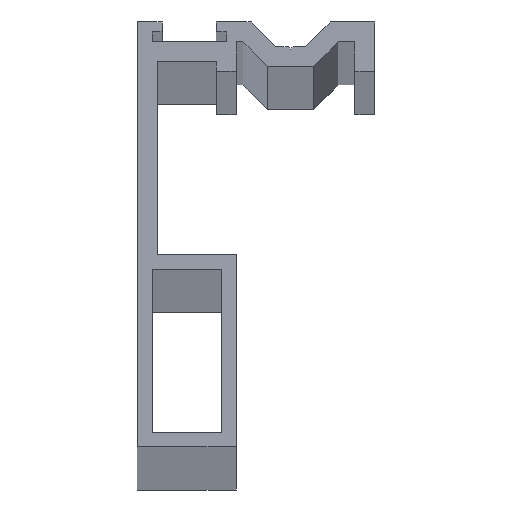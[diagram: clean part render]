
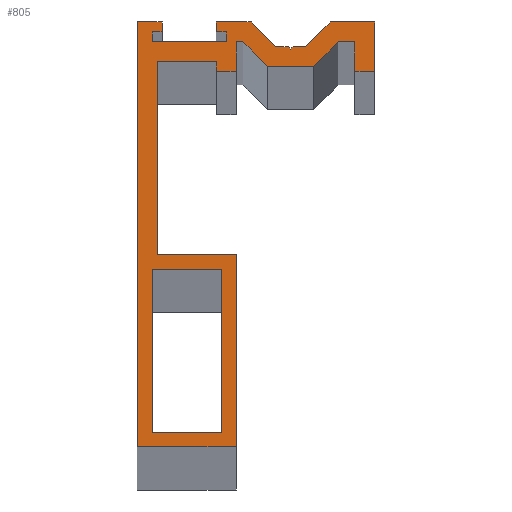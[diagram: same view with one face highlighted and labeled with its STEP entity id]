
A CAD part, top view. The second image highlights one B-rep face of the part: STEP entity #805.
In plain terms, the highlighted planar face has unit normal (0, 0, 1).
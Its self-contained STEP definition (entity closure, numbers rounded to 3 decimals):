
#805=ADVANCED_FACE('',(#1429,#1430),#1431,.T.);
#1429=FACE_BOUND('',#2228,.T.);
#1430=FACE_OUTER_BOUND('',#2229,.T.);
#1431=PLANE('',#2230);
#2228=EDGE_LOOP('',(#3099,#3100,#3101,#3102));
#2229=EDGE_LOOP('',(#3103,#3104,#3105,#3106,#3107,#3108,#3109,#3110,#3111,#3112,#3113,#3114,#3115,#3116,#3117,#3118,#3119,#3120,#3121,#3122,#3123,#3124,#3125,#3126,#3127,#3128,#3129,#3130,#3131,#3132,#3133,#3134,#3135));
#2230=AXIS2_PLACEMENT_3D('',#3136,#3137,#3138);
#3099=ORIENTED_EDGE('',*,*,#3687,.T.);
#3100=ORIENTED_EDGE('',*,*,#3692,.T.);
#3101=ORIENTED_EDGE('',*,*,#3696,.T.);
#3102=ORIENTED_EDGE('',*,*,#3699,.T.);
#3103=ORIENTED_EDGE('',*,*,#3827,.T.);
#3104=ORIENTED_EDGE('',*,*,#3823,.T.);
#3105=ORIENTED_EDGE('',*,*,#3819,.T.);
#3106=ORIENTED_EDGE('',*,*,#3815,.T.);
#3107=ORIENTED_EDGE('',*,*,#3811,.T.);
#3108=ORIENTED_EDGE('',*,*,#3806,.T.);
#3109=ORIENTED_EDGE('',*,*,#3586,.T.);
#3110=ORIENTED_EDGE('',*,*,#3803,.T.);
#3111=ORIENTED_EDGE('',*,*,#3799,.T.);
#3112=ORIENTED_EDGE('',*,*,#3795,.T.);
#3113=ORIENTED_EDGE('',*,*,#3791,.T.);
#3114=ORIENTED_EDGE('',*,*,#3787,.T.);
#3115=ORIENTED_EDGE('',*,*,#3783,.T.);
#3116=ORIENTED_EDGE('',*,*,#3779,.T.);
#3117=ORIENTED_EDGE('',*,*,#3775,.T.);
#3118=ORIENTED_EDGE('',*,*,#3771,.T.);
#3119=ORIENTED_EDGE('',*,*,#3767,.T.);
#3120=ORIENTED_EDGE('',*,*,#3763,.T.);
#3121=ORIENTED_EDGE('',*,*,#3759,.T.);
#3122=ORIENTED_EDGE('',*,*,#3755,.T.);
#3123=ORIENTED_EDGE('',*,*,#3751,.T.);
#3124=ORIENTED_EDGE('',*,*,#3747,.T.);
#3125=ORIENTED_EDGE('',*,*,#3743,.T.);
#3126=ORIENTED_EDGE('',*,*,#3739,.T.);
#3127=ORIENTED_EDGE('',*,*,#3735,.T.);
#3128=ORIENTED_EDGE('',*,*,#3731,.T.);
#3129=ORIENTED_EDGE('',*,*,#3727,.T.);
#3130=ORIENTED_EDGE('',*,*,#3723,.T.);
#3131=ORIENTED_EDGE('',*,*,#3719,.T.);
#3132=ORIENTED_EDGE('',*,*,#3715,.T.);
#3133=ORIENTED_EDGE('',*,*,#3711,.T.);
#3134=ORIENTED_EDGE('',*,*,#3707,.T.);
#3135=ORIENTED_EDGE('',*,*,#3703,.T.);
#3136=CARTESIAN_POINT('',(5.299,8.099,2500.0));
#3137=DIRECTION('',(0.0,0.0,1.0));
#3138=DIRECTION('',(1.0,0.0,0.0));
#3586=EDGE_CURVE('',#4145,#4143,#4146,.T.);
#3687=EDGE_CURVE('',#4292,#4290,#4293,.T.);
#3692=EDGE_CURVE('',#4290,#4298,#4300,.T.);
#3696=EDGE_CURVE('',#4298,#4304,#4306,.T.);
#3699=EDGE_CURVE('',#4304,#4292,#4309,.T.);
#3703=EDGE_CURVE('',#4316,#4314,#4317,.T.);
#3707=EDGE_CURVE('',#4322,#4316,#4323,.T.);
#3711=EDGE_CURVE('',#4328,#4322,#4329,.T.);
#3715=EDGE_CURVE('',#4334,#4328,#4335,.T.);
#3719=EDGE_CURVE('',#4340,#4334,#4341,.T.);
#3723=EDGE_CURVE('',#4346,#4340,#4347,.T.);
#3727=EDGE_CURVE('',#4352,#4346,#4353,.T.);
#3731=EDGE_CURVE('',#4358,#4352,#4359,.T.);
#3735=EDGE_CURVE('',#4364,#4358,#4365,.T.);
#3739=EDGE_CURVE('',#4370,#4364,#4371,.T.);
#3743=EDGE_CURVE('',#4376,#4370,#4377,.T.);
#3747=EDGE_CURVE('',#4382,#4376,#4383,.T.);
#3751=EDGE_CURVE('',#4388,#4382,#4389,.T.);
#3755=EDGE_CURVE('',#4394,#4388,#4395,.T.);
#3759=EDGE_CURVE('',#4400,#4394,#4401,.T.);
#3763=EDGE_CURVE('',#4406,#4400,#4407,.T.);
#3767=EDGE_CURVE('',#4412,#4406,#4413,.T.);
#3771=EDGE_CURVE('',#4418,#4412,#4419,.T.);
#3775=EDGE_CURVE('',#4424,#4418,#4425,.T.);
#3779=EDGE_CURVE('',#4430,#4424,#4431,.T.);
#3783=EDGE_CURVE('',#4436,#4430,#4437,.T.);
#3787=EDGE_CURVE('',#4442,#4436,#4443,.T.);
#3791=EDGE_CURVE('',#4448,#4442,#4449,.T.);
#3795=EDGE_CURVE('',#4454,#4448,#4455,.T.);
#3799=EDGE_CURVE('',#4460,#4454,#4461,.T.);
#3803=EDGE_CURVE('',#4143,#4460,#4465,.T.);
#3806=EDGE_CURVE('',#4468,#4145,#4469,.T.);
#3811=EDGE_CURVE('',#4476,#4468,#4477,.T.);
#3815=EDGE_CURVE('',#4482,#4476,#4483,.T.);
#3819=EDGE_CURVE('',#4488,#4482,#4489,.T.);
#3823=EDGE_CURVE('',#4494,#4488,#4495,.T.);
#3827=EDGE_CURVE('',#4314,#4494,#4499,.T.);
#4143=VERTEX_POINT('',#4627);
#4145=VERTEX_POINT('',#4630);
#4146=LINE('',#4631,#4632);
#4290=VERTEX_POINT('',#4819);
#4292=VERTEX_POINT('',#4822);
#4293=LINE('',#4823,#4824);
#4298=VERTEX_POINT('',#4831);
#4300=LINE('',#4834,#4835);
#4304=VERTEX_POINT('',#4840);
#4306=LINE('',#4843,#4844);
#4309=LINE('',#4848,#4849);
#4314=VERTEX_POINT('',#4855);
#4316=VERTEX_POINT('',#4858);
#4317=LINE('',#4859,#4860);
#4322=VERTEX_POINT('',#4867);
#4323=LINE('',#4868,#4869);
#4328=VERTEX_POINT('',#4876);
#4329=LINE('',#4877,#4878);
#4334=VERTEX_POINT('',#4885);
#4335=LINE('',#4886,#4887);
#4340=VERTEX_POINT('',#4894);
#4341=LINE('',#4895,#4896);
#4346=VERTEX_POINT('',#4903);
#4347=LINE('',#4904,#4905);
#4352=VERTEX_POINT('',#4912);
#4353=LINE('',#4913,#4914);
#4358=VERTEX_POINT('',#4921);
#4359=LINE('',#4922,#4923);
#4364=VERTEX_POINT('',#4930);
#4365=LINE('',#4931,#4932);
#4370=VERTEX_POINT('',#4939);
#4371=LINE('',#4940,#4941);
#4376=VERTEX_POINT('',#4948);
#4377=LINE('',#4949,#4950);
#4382=VERTEX_POINT('',#4957);
#4383=LINE('',#4958,#4959);
#4388=VERTEX_POINT('',#4966);
#4389=LINE('',#4967,#4968);
#4394=VERTEX_POINT('',#4975);
#4395=LINE('',#4976,#4977);
#4400=VERTEX_POINT('',#4984);
#4401=LINE('',#4985,#4986);
#4406=VERTEX_POINT('',#4993);
#4407=LINE('',#4994,#4995);
#4412=VERTEX_POINT('',#5002);
#4413=LINE('',#5003,#5004);
#4418=VERTEX_POINT('',#5011);
#4419=LINE('',#5012,#5013);
#4424=VERTEX_POINT('',#5020);
#4425=LINE('',#5021,#5022);
#4430=VERTEX_POINT('',#5029);
#4431=LINE('',#5030,#5031);
#4436=VERTEX_POINT('',#5038);
#4437=LINE('',#5039,#5040);
#4442=VERTEX_POINT('',#5047);
#4443=LINE('',#5048,#5049);
#4448=VERTEX_POINT('',#5056);
#4449=LINE('',#5057,#5058);
#4454=VERTEX_POINT('',#5065);
#4455=LINE('',#5066,#5067);
#4460=VERTEX_POINT('',#5074);
#4461=LINE('',#5075,#5076);
#4465=LINE('',#5082,#5083);
#4468=VERTEX_POINT('',#5086);
#4469=LINE('',#5087,#5088);
#4476=VERTEX_POINT('',#5098);
#4477=LINE('',#5099,#5100);
#4482=VERTEX_POINT('',#5107);
#4483=LINE('',#5108,#5109);
#4488=VERTEX_POINT('',#5116);
#4489=LINE('',#5117,#5118);
#4494=VERTEX_POINT('',#5125);
#4495=LINE('',#5126,#5127);
#4499=LINE('',#5133,#5134);
#4627=CARTESIAN_POINT('',(8.672,21.5,2500.0));
#4630=CARTESIAN_POINT('',(8.0,21.5,2500.0));
#4631=CARTESIAN_POINT('',(8.0,21.5,2500.0));
#4632=VECTOR('',#5209,1.0);
#4819=CARTESIAN_POINT('',(-0.5,-18.0,2500.0));
#4822=CARTESIAN_POINT('',(6.5,-18.0,2500.0));
#4823=CARTESIAN_POINT('',(2.4,-18.0,2500.0));
#4824=VECTOR('',#5335,1.0);
#4831=CARTESIAN_POINT('',(-0.5,-1.5,2500.0));
#4834=CARTESIAN_POINT('',(-0.5,3.549,2500.0));
#4835=VECTOR('',#5339,1.0);
#4840=CARTESIAN_POINT('',(6.5,-1.5,2500.0));
#4843=CARTESIAN_POINT('',(5.9,-1.5,2500.0));
#4844=VECTOR('',#5342,1.0);
#4848=CARTESIAN_POINT('',(6.5,-4.951,2500.0));
#4849=VECTOR('',#5344,1.0);
#4855=CARTESIAN_POINT('',(8.0,0.0,2500.0));
#4858=CARTESIAN_POINT('',(8.0,-19.5,2500.0));
#4859=CARTESIAN_POINT('',(8.0,-19.5,2500.0));
#4860=VECTOR('',#5347,1.0);
#4867=CARTESIAN_POINT('',(-2.0,-19.5,2500.0));
#4868=CARTESIAN_POINT('',(-2.0,-19.5,2500.0));
#4869=VECTOR('',#5350,1.0);
#4876=CARTESIAN_POINT('',(-2.0,23.5,2500.0));
#4877=CARTESIAN_POINT('',(-2.0,23.5,2500.0));
#4878=VECTOR('',#5353,1.0);
#4885=CARTESIAN_POINT('',(0.5,23.5,2500.0));
#4886=CARTESIAN_POINT('',(0.5,23.5,2500.0));
#4887=VECTOR('',#5356,1.0);
#4894=CARTESIAN_POINT('',(0.5,22.5,2500.0));
#4895=CARTESIAN_POINT('',(0.5,22.5,2500.0));
#4896=VECTOR('',#5359,1.0);
#4903=CARTESIAN_POINT('',(-0.5,22.5,2500.0));
#4904=CARTESIAN_POINT('',(-0.5,22.5,2500.0));
#4905=VECTOR('',#5362,1.0);
#4912=CARTESIAN_POINT('',(-0.5,21.5,2500.0));
#4913=CARTESIAN_POINT('',(-0.5,21.5,2500.0));
#4914=VECTOR('',#5365,1.0);
#4921=CARTESIAN_POINT('',(7.0,21.5,2500.0));
#4922=CARTESIAN_POINT('',(7.0,21.5,2500.0));
#4923=VECTOR('',#5368,1.0);
#4930=CARTESIAN_POINT('',(7.0,22.5,2500.0));
#4931=CARTESIAN_POINT('',(7.0,22.5,2500.0));
#4932=VECTOR('',#5371,1.0);
#4939=CARTESIAN_POINT('',(6.0,22.5,2500.0));
#4940=CARTESIAN_POINT('',(6.0,22.5,2500.0));
#4941=VECTOR('',#5374,1.0);
#4948=CARTESIAN_POINT('',(6.0,23.5,2500.0));
#4949=CARTESIAN_POINT('',(6.0,23.5,2500.0));
#4950=VECTOR('',#5377,1.0);
#4957=CARTESIAN_POINT('',(9.5,23.5,2500.0));
#4958=CARTESIAN_POINT('',(9.5,23.5,2500.0));
#4959=VECTOR('',#5380,1.0);
#4966=CARTESIAN_POINT('',(12.0,21.0,2500.0));
#4967=CARTESIAN_POINT('',(12.0,21.0,2500.0));
#4968=VECTOR('',#5383,1.);
#4975=CARTESIAN_POINT('',(13.25,21.0,2500.0));
#4976=CARTESIAN_POINT('',(13.25,21.0,2500.0));
#4977=VECTOR('',#5386,1.0);
#4984=CARTESIAN_POINT('',(13.5,20.75,2500.0));
#4985=CARTESIAN_POINT('',(13.5,20.75,2500.0));
#4986=VECTOR('',#5389,1.);
#4993=CARTESIAN_POINT('',(13.75,21.0,2500.0));
#4994=CARTESIAN_POINT('',(13.75,21.0,2500.0));
#4995=VECTOR('',#5392,1.);
#5002=CARTESIAN_POINT('',(15.0,21.0,2500.0));
#5003=CARTESIAN_POINT('',(15.0,21.0,2500.0));
#5004=VECTOR('',#5395,1.0);
#5011=CARTESIAN_POINT('',(17.5,23.5,2500.0));
#5012=CARTESIAN_POINT('',(17.5,23.5,2500.0));
#5013=VECTOR('',#5398,1.);
#5020=CARTESIAN_POINT('',(22.0,23.5,2500.0));
#5021=CARTESIAN_POINT('',(22.0,23.5,2500.0));
#5022=VECTOR('',#5401,1.0);
#5029=CARTESIAN_POINT('',(22.0,18.5,2500.0));
#5030=CARTESIAN_POINT('',(22.0,18.5,2500.0));
#5031=VECTOR('',#5404,1.0);
#5038=CARTESIAN_POINT('',(20.0,18.5,2500.0));
#5039=CARTESIAN_POINT('',(20.0,18.5,2500.0));
#5040=VECTOR('',#5407,1.0);
#5047=CARTESIAN_POINT('',(20.0,21.5,2500.0));
#5048=CARTESIAN_POINT('',(20.0,21.5,2500.0));
#5049=VECTOR('',#5410,1.0);
#5056=CARTESIAN_POINT('',(18.328,21.5,2500.0));
#5057=CARTESIAN_POINT('',(18.328,21.5,2500.0));
#5058=VECTOR('',#5413,1.0);
#5065=CARTESIAN_POINT('',(15.828,19.0,2500.0));
#5066=CARTESIAN_POINT('',(15.828,19.0,2500.0));
#5067=VECTOR('',#5416,1.);
#5074=CARTESIAN_POINT('',(11.172,19.0,2500.0));
#5075=CARTESIAN_POINT('',(11.172,19.0,2500.0));
#5076=VECTOR('',#5419,1.0);
#5082=CARTESIAN_POINT('',(8.672,21.5,2500.0));
#5083=VECTOR('',#5422,1.);
#5086=CARTESIAN_POINT('',(8.0,18.5,2500.0));
#5087=CARTESIAN_POINT('',(8.0,18.5,2500.0));
#5088=VECTOR('',#5423,1.0);
#5098=CARTESIAN_POINT('',(6.0,18.5,2500.0));
#5099=CARTESIAN_POINT('',(6.0,18.5,2500.0));
#5100=VECTOR('',#5427,1.0);
#5107=CARTESIAN_POINT('',(6.0,19.5,2500.0));
#5108=CARTESIAN_POINT('',(6.0,19.5,2500.0));
#5109=VECTOR('',#5430,1.0);
#5116=CARTESIAN_POINT('',(0.0,19.5,2500.0));
#5117=CARTESIAN_POINT('',(0.0,19.5,2500.0));
#5118=VECTOR('',#5433,1.0);
#5125=CARTESIAN_POINT('',(0.0,0.0,2500.0));
#5126=CARTESIAN_POINT('',(0.0,0.5,2500.0));
#5127=VECTOR('',#5436,1.0);
#5133=CARTESIAN_POINT('',(8.0,0.0,2500.0));
#5134=VECTOR('',#5439,1.0);
#5209=DIRECTION('',(1.0,0.0,0.0));
#5335=DIRECTION('',(-1.0,0.0,0.0));
#5339=DIRECTION('',(0.0,1.0,0.0));
#5342=DIRECTION('',(1.0,0.0,0.0));
#5344=DIRECTION('',(0.0,-1.0,0.0));
#5347=DIRECTION('',(0.0,1.0,0.0));
#5350=DIRECTION('',(1.0,0.0,0.0));
#5353=DIRECTION('',(0.0,-1.0,0.0));
#5356=DIRECTION('',(-1.0,0.0,0.0));
#5359=DIRECTION('',(0.0,1.0,0.0));
#5362=DIRECTION('',(1.0,0.0,0.0));
#5365=DIRECTION('',(0.0,1.0,0.0));
#5368=DIRECTION('',(-1.0,0.0,0.0));
#5371=DIRECTION('',(0.0,-1.0,0.0));
#5374=DIRECTION('',(1.0,0.0,0.0));
#5377=DIRECTION('',(0.0,-1.0,0.0));
#5380=DIRECTION('',(-1.0,0.0,0.0));
#5383=DIRECTION('',(-0.707,0.707,0.0));
#5386=DIRECTION('',(-1.0,0.0,0.0));
#5389=DIRECTION('',(-0.707,0.707,0.0));
#5392=DIRECTION('',(-0.707,-0.707,0.0));
#5395=DIRECTION('',(-1.0,0.0,0.0));
#5398=DIRECTION('',(-0.707,-0.707,0.0));
#5401=DIRECTION('',(-1.0,0.0,0.0));
#5404=DIRECTION('',(0.0,1.0,0.0));
#5407=DIRECTION('',(1.0,0.0,0.0));
#5410=DIRECTION('',(0.0,-1.0,0.0));
#5413=DIRECTION('',(1.0,0.0,0.0));
#5416=DIRECTION('',(0.707,0.707,0.0));
#5419=DIRECTION('',(1.0,0.0,0.0));
#5422=DIRECTION('',(0.707,-0.707,0.0));
#5423=DIRECTION('',(0.0,1.0,0.0));
#5427=DIRECTION('',(1.0,0.0,0.0));
#5430=DIRECTION('',(0.0,-1.0,0.0));
#5433=DIRECTION('',(1.0,0.0,0.0));
#5436=DIRECTION('',(0.0,1.0,0.0));
#5439=DIRECTION('',(-1.0,0.0,0.0));
